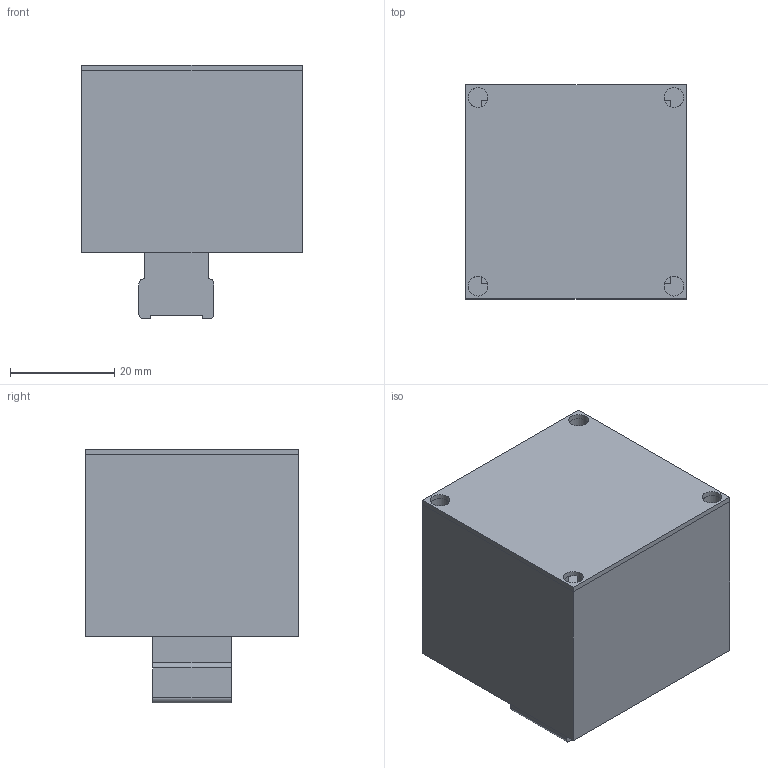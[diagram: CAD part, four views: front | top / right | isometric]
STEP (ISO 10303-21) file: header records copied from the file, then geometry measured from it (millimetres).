
FILE_DESCRIPTION(/* description */ ('STEP AP242 Edition 2','CAx-IF Rec.Pracs.---Representation and Presentation of Product Manufacturing Information (PMI)---4.0---2014-10-13','CAx-IF Rec.Pracs.---3D Tessellated Geometry---0.4---2014-09-14','2;1','CAx-IF Rec.Pracs.---User Defined Attributes---1.5---2016-08-15'),/* implementation_level */ '2;1');
FILE_NAME(/* name */ 'Part Studio 2',/* time_stamp */ '2026-05-26T19:17:45Z',/* author */ (''),/* organization */ (''),/* preprocessor_version */ 'ST-DEVELOPER v20',/* originating_system */ 'ONSHAPE BY PTC INC, 1.215',/* authorisation */ ' ');
FILE_SCHEMA (('AP242_MANAGED_MODEL_BASED_3D_ENGINEERING_MIM_LF { 1 0 10303 442 3 1 4 }'));
Length unit declared in the file: metre
Products named in the file (2): Part 2; Part 1
Bounding box: 42.4 x 41 x 48.7 mm (x, y, z)
Volume: 20204.3 mm3; surface area: 19074 mm2
Topology: 2 solids, 2 shells, 48 faces, 126 edges, 84 vertices
Faces by surface type: plane 36, cylinder 12
Full cylindrical faces by diameter (mm): 3.8 x4
Entity records: 1522 total; most frequent: CARTESIAN_POINT 256, DIRECTION 246, ORIENTED_EDGE 244, EDGE_CURVE 122, LINE 98, VECTOR 98, VERTEX_POINT 84, AXIS2_PLACEMENT_3D 74
